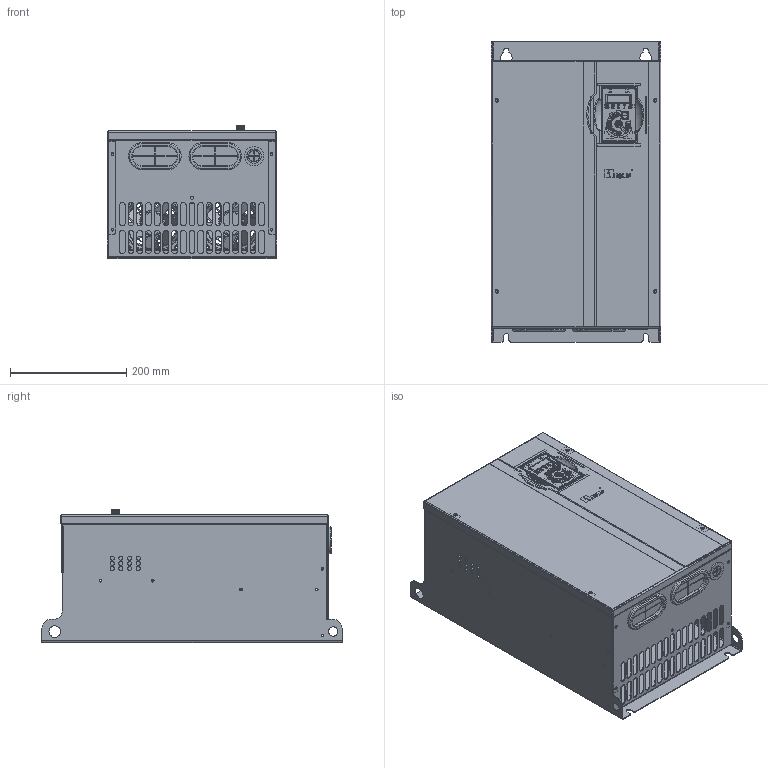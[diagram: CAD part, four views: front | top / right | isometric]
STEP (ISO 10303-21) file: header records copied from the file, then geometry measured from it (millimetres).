
FILE_DESCRIPTION((''),'2;1');
FILE_NAME('HP106-A5-1-37_ASM','2016-10-27T',('u251257'),('Danfoss Power Electronics'),'CREO PARAMETRIC BY PTC INC, 2015480','CREO PARAMETRIC BY PTC INC, 2015480','');
FILE_SCHEMA(('CONFIG_CONTROL_DESIGN','GEOMETRIC_VALIDATION_PROPERTIES_MIM'));
Products named in the file (3): HP106-A5-1; 133B6065-KONG; HP106-A5-1-37_ASM
Assembly tree (2 placements, depth 2):
  HP106-A5-1-37_ASM
    HP106-A5-1
    133B6065-KONG
Bounding box: 292 x 517 x 229.44 mm (x, y, z)
Volume: 1234567.7 mm3; surface area: 1591409.9 mm2
Topology: 19 solids, 41 shells, 4213 faces, 11578 edges, 7508 vertices
Faces by surface type: plane 2122, cylinder 1004, bspline 469, cone 376, torus 190, extrusion 32, sphere 16, revolution 4
Entity records: 157977 total; most frequent: CARTESIAN_POINT 50419, ORIENTED_EDGE 23152, DIRECTION 19246, EDGE_CURVE 11576, VERTEX_POINT 7508, VECTOR 6474, LINE 6442, AXIS2_PLACEMENT_3D 6384
